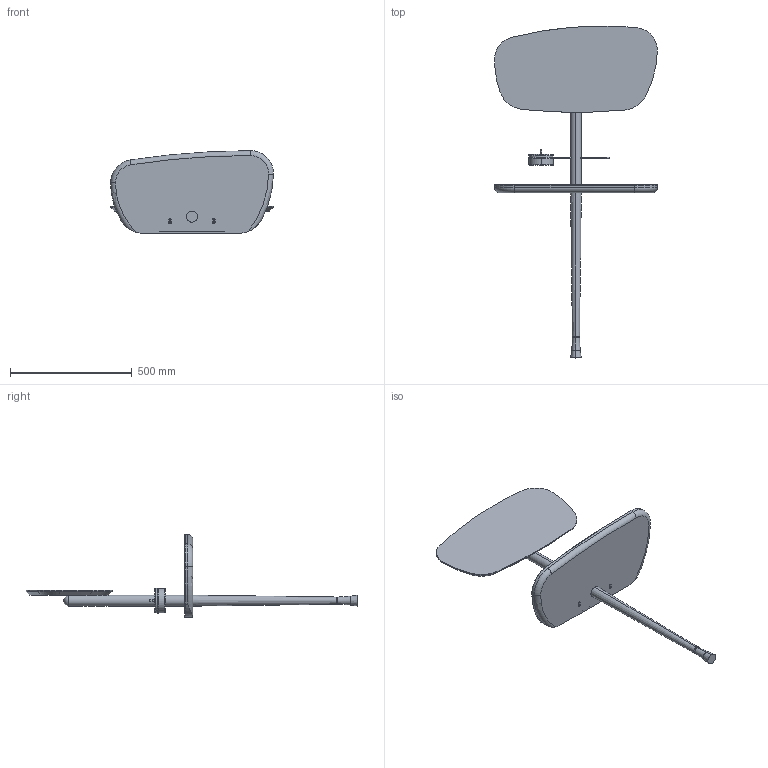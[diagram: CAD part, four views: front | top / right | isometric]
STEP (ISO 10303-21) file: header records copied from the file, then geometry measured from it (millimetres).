
FILE_DESCRIPTION (( 'STEP AP214' ), '1' );
FILE_NAME ('TOCADOR.STEP', '2016-10-05T07:25:28', ( 'Usuario' ), ( '' ), 'SwSTEP 2.0', 'SolidWorks 2016', '' );
FILE_SCHEMA (( 'AUTOMOTIVE_DESIGN' ));
Length unit declared in the file: millimetre
Products named in the file (15): 2_REPISA_NOGAL; 1_PALO_BASE_T; 10_EMBELLECEDOR; 3_ANCLAJE_PARED; 9_VARILLA_LATÓN; ESPARRAGO_M10; TORNILLO_ALLEN; 7_CAJA_NOGAL; ESPEJO; TAPA_NOGAL; 6_ESPEJO; 8_TAPA_CAJA; 4_PALO_ESPEJO_T; TOCADOR; 5_SOPORTE_ESPEJO
Assembly tree (17 placements, depth 3):
  TOCADOR
    1_PALO_BASE_T
    2_REPISA_NOGAL
    ESPARRAGO_M10
    3_ANCLAJE_PARED
    4_PALO_ESPEJO_T
    5_SOPORTE_ESPEJO
    9_VARILLA_LATÓN
    7_CAJA_NOGAL
    8_TAPA_CAJA
      TAPA_NOGAL
      ESPEJO
    10_EMBELLECEDOR  x3
    6_ESPEJO
    TORNILLO_ALLEN  x2
Bounding box: 670.55 x 1365.61 x 340 mm (x, y, z)
Volume: 11139766.1 mm3; surface area: 1596883.4 mm2
Topology: 16 solids, 16 shells, 308 faces, 712 edges, 452 vertices
Faces by surface type: cylinder 138, plane 96, torus 52, cone 21, sphere 1
Entity records: 9686 total; most frequent: CARTESIAN_POINT 2333, DIRECTION 1567, ORIENTED_EDGE 1310, AXIS2_PLACEMENT_3D 657, EDGE_CURVE 655, VERTEX_POINT 414, CIRCLE 356, EDGE_LOOP 333
